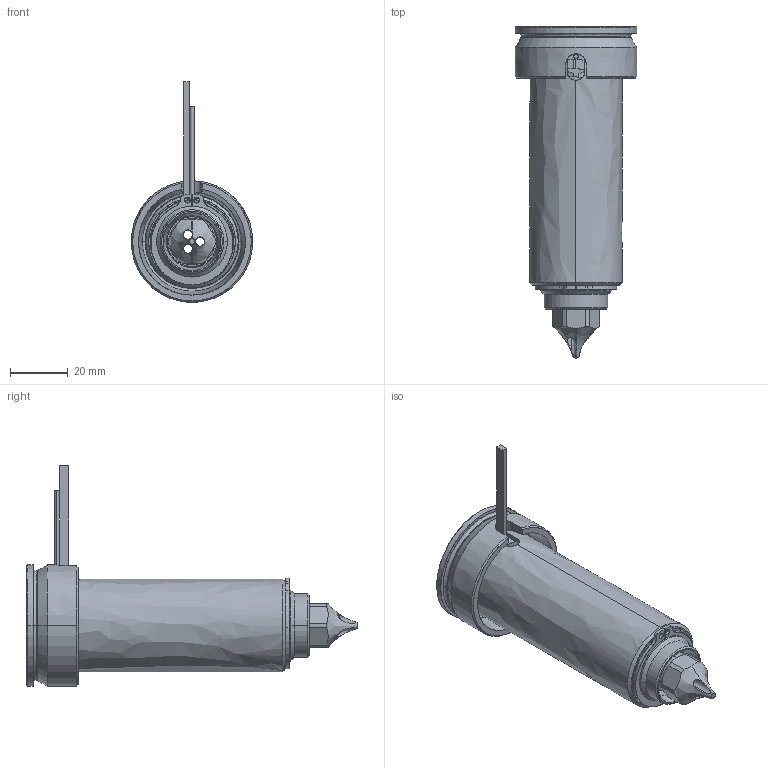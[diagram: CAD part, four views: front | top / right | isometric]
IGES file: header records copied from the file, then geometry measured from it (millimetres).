
Start section: SolidWorks IGES file using analytic representation for surfaces
Global section: file name: C:\Users\luca.EMPAD\Desktop\TEM\UGDL3613-M-A-1 [Øf=2.0 ØC=10].IGS; native system: SolidWorks 2012; preprocessor: SolidWorks 2012; author: luca; date: 120330.160634; units: millimetre
Bounding box: 42 x 114.8 x 76.3 mm (x, y, z)
Surface area: 36939.9 mm2 (no closed solid volume)
Topology: 0 solids, 0 shells, 128 faces, 2332 edges, 2332 vertices
Faces by surface type: revolution 81, bspline 47
